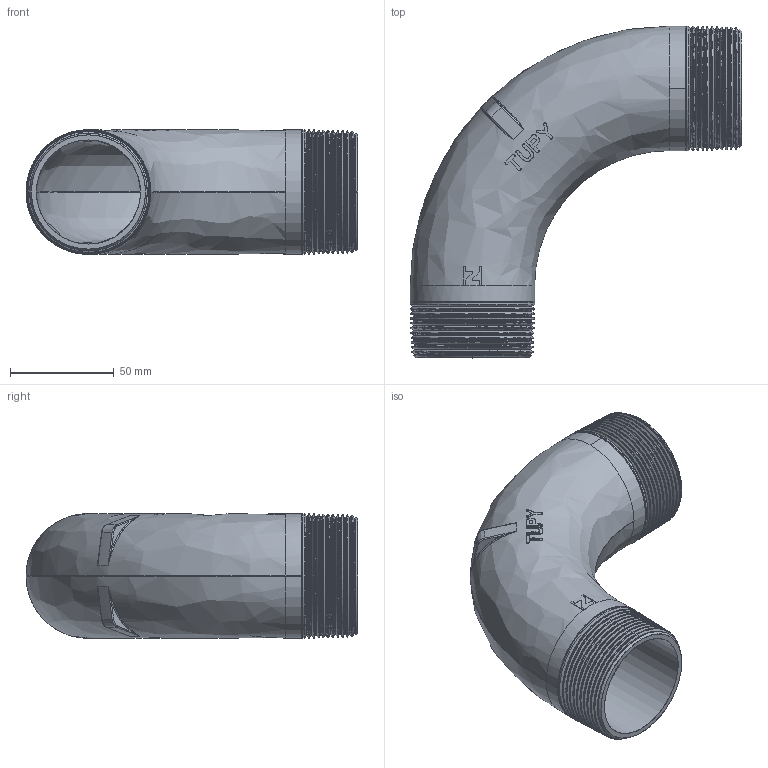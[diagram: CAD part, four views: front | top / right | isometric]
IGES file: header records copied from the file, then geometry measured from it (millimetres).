
Start section: SolidWorks IGES file using analytic representation for surfaces
Global section: file name: C:\Users\Joel Rosa\Desktop\Tubulação\12-25-OK\12-25-010.IGS; native system: SolidWorks 2011; preprocessor: SolidWorks 2011; author: Joel Rosa; date: 121207.021546; units: millimetre
Bounding box: 160.1 x 160.1 x 60.21 mm (x, y, z)
Surface area: 83223.3 mm2 (no closed solid volume)
Topology: 0 solids, 0 shells, 381 faces, 3088 edges, 3084 vertices
Faces by surface type: bspline 270, revolution 111
